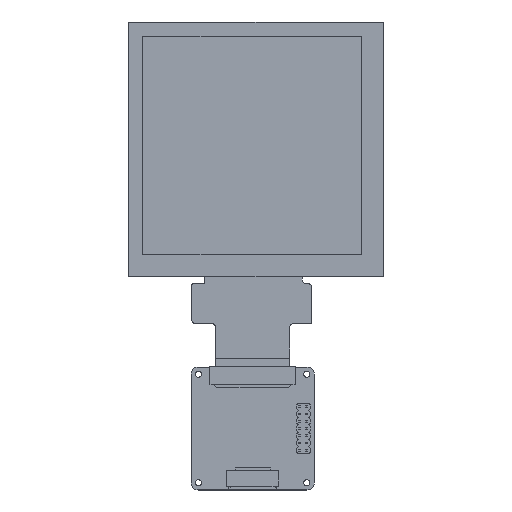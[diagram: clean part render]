
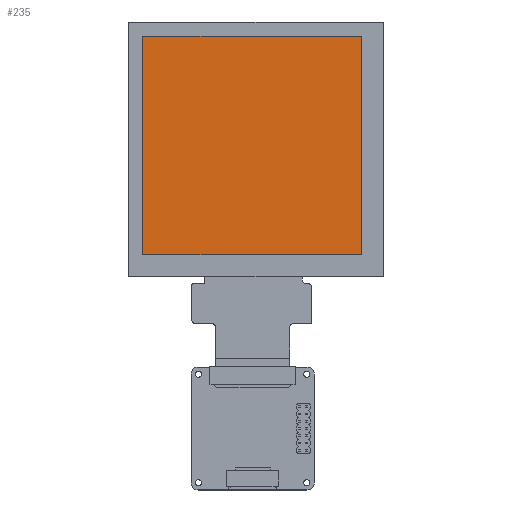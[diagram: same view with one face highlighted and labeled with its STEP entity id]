
A CAD part, top view. The second image highlights one B-rep face of the part: STEP entity #235.
In plain terms, the highlighted planar face has unit normal (0, 0, 1).
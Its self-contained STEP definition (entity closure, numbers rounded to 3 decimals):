
#83=DIRECTION('',(1.,0.,0.));
#84=VECTOR('',#83,60.48);
#85=CARTESIAN_POINT('',(-31.295,31.26,1.89));
#86=LINE('',#85,#84);
#87=DIRECTION('',(0.,1.,0.));
#88=VECTOR('',#87,60.48);
#89=CARTESIAN_POINT('',(-31.295,-29.22,1.89));
#90=LINE('',#89,#88);
#91=DIRECTION('',(-1.,0.,0.));
#92=VECTOR('',#91,60.48);
#93=CARTESIAN_POINT('',(29.185,-29.22,1.89));
#94=LINE('',#93,#92);
#95=DIRECTION('',(0.,-1.,0.));
#96=VECTOR('',#95,60.48);
#97=CARTESIAN_POINT('',(29.185,31.26,1.89));
#98=LINE('',#97,#96);
#115=CARTESIAN_POINT('',(-31.295,31.26,1.89));
#116=CARTESIAN_POINT('',(29.185,31.26,1.89));
#117=VERTEX_POINT('',#115);
#118=VERTEX_POINT('',#116);
#119=CARTESIAN_POINT('',(29.185,-29.22,1.89));
#120=VERTEX_POINT('',#119);
#121=CARTESIAN_POINT('',(-31.295,-29.22,1.89));
#122=VERTEX_POINT('',#121);
#224=CARTESIAN_POINT('',(0.,0.,1.89));
#225=DIRECTION('',(0.,0.,1.));
#226=DIRECTION('',(1.,0.,0.));
#227=AXIS2_PLACEMENT_3D('',#224,#225,#226);
#228=PLANE('',#227);
#229=ORIENTED_EDGE('',*,*,#206,.T.);
#230=ORIENTED_EDGE('',*,*,#212,.T.);
#231=ORIENTED_EDGE('',*,*,#210,.T.);
#232=ORIENTED_EDGE('',*,*,#208,.T.);
#233=EDGE_LOOP('',(#229,#230,#231,#232));
#234=FACE_OUTER_BOUND('',#233,.F.);
#206=EDGE_CURVE('',#117,#118,#86,.T.);
#208=EDGE_CURVE('',#122,#117,#90,.T.);
#210=EDGE_CURVE('',#120,#122,#94,.T.);
#212=EDGE_CURVE('',#118,#120,#98,.T.);
#235=ADVANCED_FACE('',(#234),#228,.T.);
